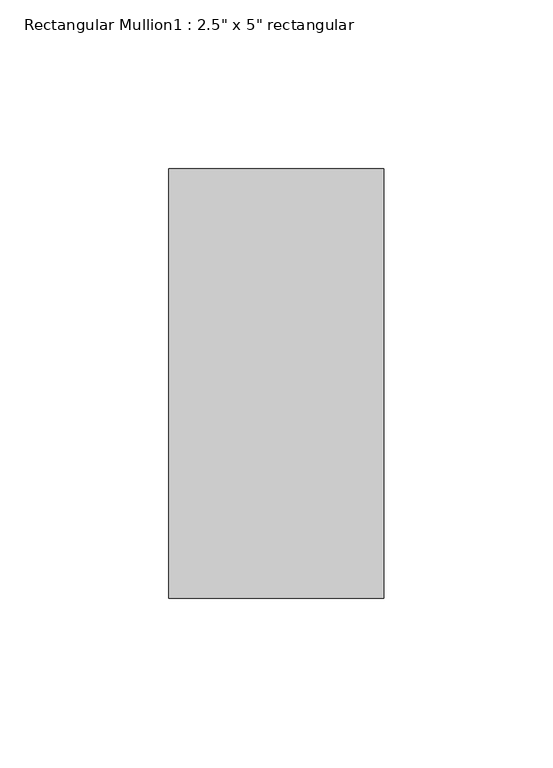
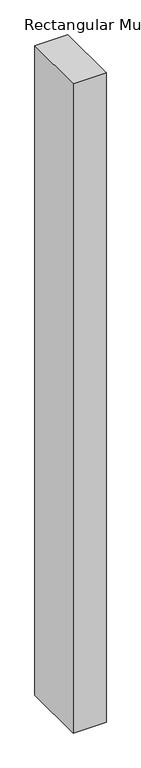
"""IFC4 building model written with IfcOpenShell, lengths in millimetres: member geometry."""

from ifc_helpers import new_model, si_unit, frame, origin, place, context, project, spatial, polyline, outline, extrude, source, transform, mapped, element, save


def member_c609194f(model_context):
    return source(origin(), model_context, "Body", "SweptSolid", [
        extrude(outline(polyline([(31.75, 63.5), (31.75, -63.5), (-31.75, -63.5), (-31.75, 63.5), (31.75, 63.5)])), frame((0.0, 0.0, -1320.067308), z_axis=(0.0, 0.0, 1.0), x_axis=(1.0, 0.0, 0.0)), (0.0, 0.0, 1.0), 1320.067308),
    ])


if __name__ == "__main__":
    model = new_model("IFC4")
    model_context = context("Model", 3, world=origin())
    ifc_project = project(units=[si_unit("LENGTHUNIT", "METRE", prefix="MILLI")], contexts=[model_context])
    site = spatial("IfcSite", under=ifc_project)
    building = spatial("IfcBuilding", under=site)
    placement = place(None, origin())
    member_shape = member_c609194f(model_context)
    element("IfcMember", 1, ObjectType="Rectangular Mullion1 : 2.5\" x 5\" rectangular", at=placement, inside=building, context=model_context, shape_type="MappedRepresentation", body=[
        mapped(member_shape, transform((0.0, 0.0, 0.0), x_axis=(1.0, 0.0, 0.0), y_axis=(0.0, 1.0, 0.0), z_axis=(0.0, 0.0, 1.0))),
    ])
    save(model, "model.ifc")
